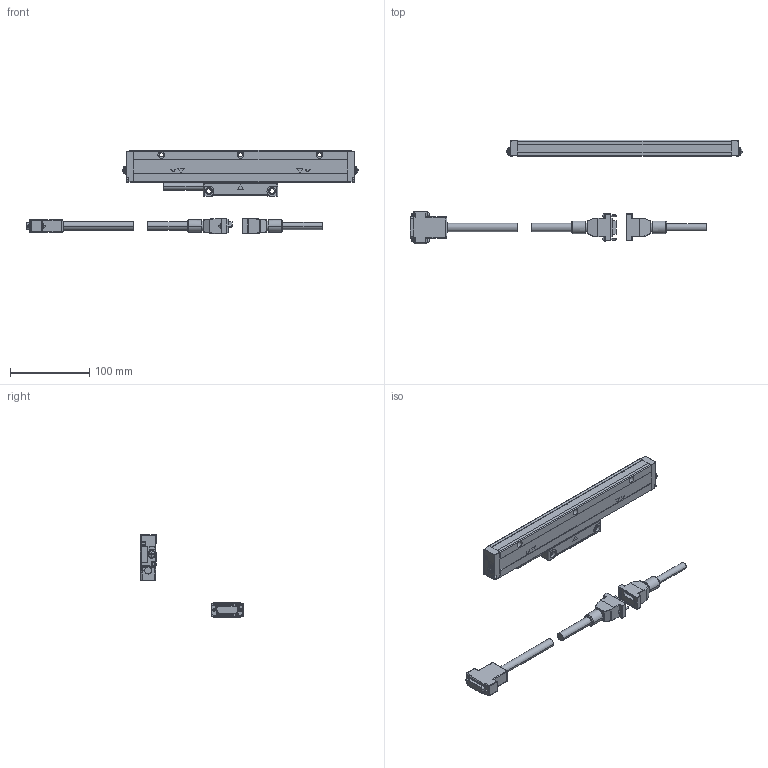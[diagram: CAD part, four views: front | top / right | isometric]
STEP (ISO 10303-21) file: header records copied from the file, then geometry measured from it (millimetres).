
FILE_DESCRIPTION(('Creo Elements/Direct Modeling STEP Export'),'2;1');
FILE_NAME('AT211-150A.stp','2018-03-15T 9:45:50',(''),(''),'Creo Elements/Direct Modeling STEP processor for AP214 (Solid Model)','Creo Elements/Direct Modeling 18.1B 29-Sep-2012 (C) Parametric Technology GmbH','');
FILE_SCHEMA(('AUTOMOTIVE_DESIGN { 1 0 10303 214 1 1 1 1 }'));
Length unit declared in the file: millimetre
Products named in the file (7): Head_Cable; SignalCable; D-sub15; Cable; AT211_Scale_150; Detector_Head; AT211-150A
Assembly tree (6 placements, depth 3):
  AT211-150A
    Detector_Head
    AT211_Scale_150
    Cable
      D-sub15
      SignalCable
      Head_Cable
Bounding box: 419.56 x 130.6 x 105 mm (x, y, z)
Volume: 323633.4 mm3; surface area: 74039.4 mm2
Topology: 5 solids, 5 shells, 1027 faces, 2502 edges, 1476 vertices
Faces by surface type: plane 505, cylinder 318, sphere 74, cone 48, torus 38, extrusion 32, revolution 8, bspline 4
Entity records: 34303 total; most frequent: CARTESIAN_POINT 9334, ORIENTED_EDGE 4856, DIRECTION 4587, EDGE_CURVE 2428, AXIS2_PLACEMENT_3D 1600, VERTEX_POINT 1476, VECTOR 1375, LINE 1363
